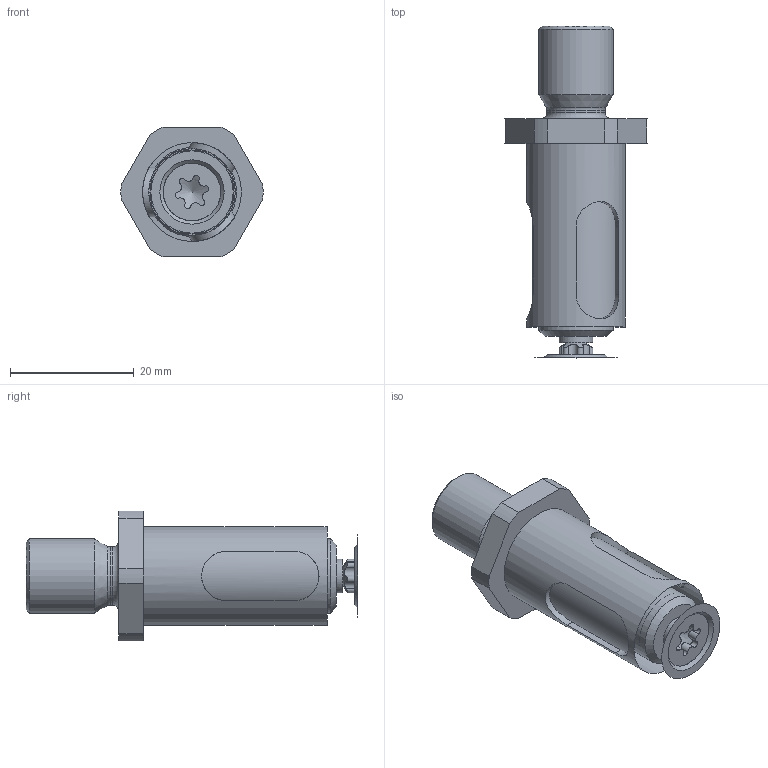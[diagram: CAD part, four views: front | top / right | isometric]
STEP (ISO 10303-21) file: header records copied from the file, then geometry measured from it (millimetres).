
FILE_DESCRIPTION(/* description */ (''),/* implementation_level */ '2;1');
FILE_NAME(/* name */ '\\dc01\daten\CAD\Standard\Daten\3D-Datenbank\GI\GIS\4 - 3D-CAD-Daten GIS 004-020\G-GIS016\G-GIS016_Rev.1.02.stp',/* time_stamp */ '2022-11-29T15:59:58+01:00',/* author */ ('ysplieth'),/* organization */ (''),/* preprocessor_version */ 'ST-DEVELOPER v17',/* originating_system */ 'Autodesk Inventor 2018',/* authorisation */ '');
FILE_SCHEMA (('AUTOMOTIVE_DESIGN { 1 0 10303 214 3 1 1 }'));
Length unit declared in the file: millimetre
Products named in the file (1): Bauteil13
Bounding box: 22.99 x 53.7 x 21 mm (x, y, z)
Volume: 8576.4 mm3; surface area: 6320.3 mm2
Topology: 1 solids, 4 shells, 78 faces, 216 edges, 149 vertices
Faces by surface type: cylinder 41, plane 23, cone 11, torus 3
Full cylindrical faces by diameter (mm): 4 x2, 4.134 x2, 5 x1, 5.5 x1, 9.3 x1, 9.4 x1, 11.8 x1, 12 x2, 14 x2, 16 x1
Entity records: 3186 total; most frequent: CARTESIAN_POINT 1038, ORIENTED_EDGE 426, DIRECTION 422, EDGE_CURVE 213, AXIS2_PLACEMENT_3D 167, VERTEX_POINT 149, EDGE_LOOP 92, LINE 88
